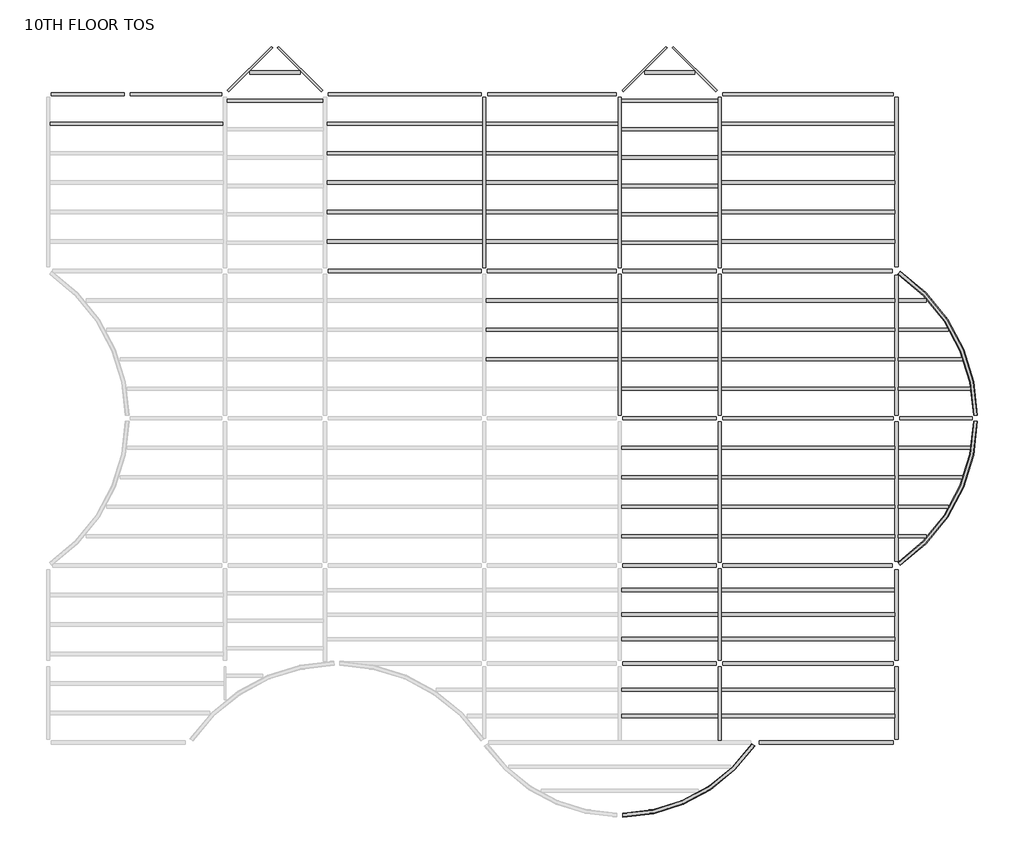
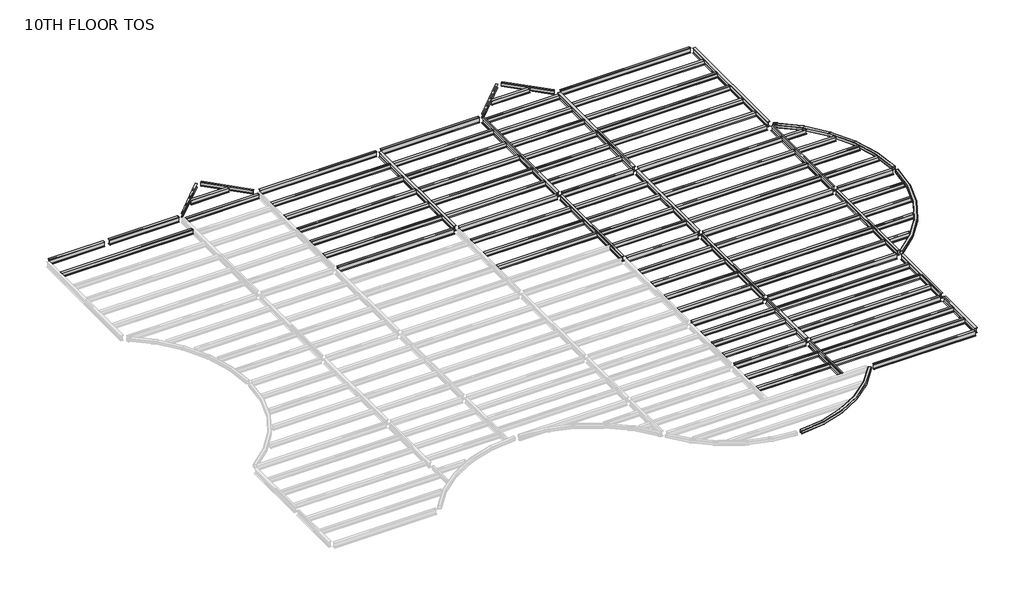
# One storey, part 2 of 2: 99 beams.
"""IFC4 building model written with IfcOpenShell, lengths in millimetres."""

from ifc_helpers import new_model, si_unit, origin, place, context, project, spatial, transform, mapped, element, save
from components import m_hss_square_hss203_2x203_2x9_5_28e91a4e, m_hss_square_hss203_2x203_2x9_5_f31329aa, m_hss_square_hss203_2x203_2x9_5_63507dff, ub_universal_beams_ub254x102x28_7812688d, ub_universal_beams_ub254x102x28_4a38c177, ub_universal_beams_ub305x165x40_c4d0385b, ub_universal_beams_ub305x165x40_19965e16, ub_universal_beams_ub305x165x40_d3abc31d, ub_universal_beams_ub305x165x40_0c73730f, ub_universal_beams_ub305x165x40_2a963f0c, ub_universal_beams_ub305x165x40_9ce7f2ee, ub_universal_beams_ub305x165x40_d184adfd, ub_universal_beams_ub305x165x40_bc7dc938, ub_universal_beams_ub305x165x40_b4233d25, ub_universal_beams_ub356x171x51_c708c058, ub_universal_beams_ub356x171x51_ef72dcdd, ub_universal_beams_ub356x171x51_10b3c54f, ub_universal_beams_ub356x171x51_4c9fd821, ub_universal_beams_ub356x171x51_d1a87c3c, ub_universal_beams_ub356x171x51_fa75724b, ub_universal_beams_ub356x171x51_68db896e, ub_universal_beams_ub356x171x51_c634c4a6, ub_universal_beams_ub356x171x51_995f1560, ub_universal_beams_ub356x171x51_dfc36663, ub_universal_beams_ub356x171x51_11d6b780, ub_universal_beams_ub356x171x51_76b2d20b, ub_universal_beams_ub356x171x51_145ecd4b, ub_universal_beams_ub356x171x51_c7dff8d2, ub_universal_beams_ub356x171x51_8a345439, ub_universal_beams_ub356x171x51_6da510e9, ub_universal_beams_ub356x171x51_e97f8d2e, ub_universal_beams_ub356x171x51_a38b99de, ub_universal_beams_ub356x171x51_d8f4cdde, ub_universal_beams_ub356x171x51_475301e6, ub_universal_beams_ub356x171x51_c03c70fb, ub_universal_beams_ub356x171x51_741bae58

model = new_model("IFC4")

# Units and contexts
model_context = context("Model", 3, world=origin())
ifc_project = project(units=[si_unit("LENGTHUNIT", "METRE", prefix="MILLI")], contexts=[model_context])

# Site, building, storey
site = spatial("IfcSite", under=ifc_project)
building = spatial("IfcBuilding", under=site)
storey = spatial("IfcBuildingStorey", under=building, Name="10TH FLOOR TOS", Elevation=45567.6)

# Beams
placement = place(None, origin())
m_hss_square_hss203_2x203_2x9_5_shape = m_hss_square_hss203_2x203_2x9_5_28e91a4e(model_context)
element("IfcBeam", 1, ObjectType="M_HSS Square : HSS203.2X203.2X9.5", at=placement, inside=storey, context=model_context, shape_type="MappedRepresentation", body=[
    mapped(m_hss_square_hss203_2x203_2x9_5_shape, transform((44027.575, 24539.575, 45466.1), x_axis=(0.8332810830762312, -0.5528495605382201, 0.0), y_axis=(0.5528495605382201, 0.8332810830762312, 0.0), z_axis=(0.0, 0.0, 1.0))),
])
m_hss_square_hss203_2x203_2x9_5_2_shape = m_hss_square_hss203_2x203_2x9_5_f31329aa(model_context)
element("IfcBeam", 2, ObjectType="M_HSS Square : HSS203.2X203.2X9.5", at=placement, inside=storey, context=model_context, shape_type="MappedRepresentation", body=[
    mapped(m_hss_square_hss203_2x203_2x9_5_2_shape, transform((44027.575, 9299.575, 45466.1), x_axis=(0.8332810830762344, 0.5528495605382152, 0.0), y_axis=(-0.5528495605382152, 0.8332810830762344, 0.0), z_axis=(0.0, 0.0, 1.0))),
])
m_hss_square_hss203_2x203_2x9_5_3_shape = m_hss_square_hss203_2x203_2x9_5_63507dff(model_context)
element("IfcBeam", 3, ObjectType="M_HSS Square : HSS203.2X203.2X9.5", at=placement, inside=storey, context=model_context, shape_type="MappedRepresentation", body=[
    mapped(m_hss_square_hss203_2x203_2x9_5_3_shape, transform((36716.575, 155.575, 45466.1), x_axis=(-0.5530174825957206, -0.8331696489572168, 0.0), y_axis=(0.8331696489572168, -0.5530174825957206, 0.0), z_axis=(0.0, 0.0, 1.0))),
])
ub_universal_beams_ub254x102x28_shape = ub_universal_beams_ub254x102x28_7812688d(model_context)
element("IfcBeam", 4, ObjectType="UB-Universal Beams : UB254x102x28", at=placement, inside=storey, context=model_context, shape_type="MappedRepresentation", body=[
    mapped(ub_universal_beams_ub254x102x28_shape, transform((10592.575, 34976.575, 45437.4), x_axis=(0.7071067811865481, 0.7071067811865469, 0.0), y_axis=(-0.7071067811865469, 0.7071067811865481, 0.0), z_axis=(0.0, 0.0, 1.0))),
])
element("IfcBeam", 5, ObjectType="UB-Universal Beams : UB254x102x28", at=placement, inside=storey, context=model_context, shape_type="MappedRepresentation", body=[
    mapped(ub_universal_beams_ub254x102x28_shape, transform((31004.575, 34976.575, 45437.4), x_axis=(0.7071067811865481, 0.7071067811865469, 0.0), y_axis=(-0.7071067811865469, 0.7071067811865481, 0.0), z_axis=(0.0, 0.0, 1.0))),
])
ub_universal_beams_ub254x102x28_2_shape = ub_universal_beams_ub254x102x28_4a38c177(model_context)
element("IfcBeam", 6, ObjectType="UB-Universal Beams : UB254x102x28", at=placement, inside=storey, context=model_context, shape_type="MappedRepresentation", body=[
    mapped(ub_universal_beams_ub254x102x28_2_shape, transform((13178.575, 34976.575, 45437.4), x_axis=(0.707106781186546, -0.707106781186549, 0.0), y_axis=(0.707106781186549, 0.707106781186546, 0.0), z_axis=(0.0, 0.0, 1.0))),
])
element("IfcBeam", 7, ObjectType="UB-Universal Beams : UB254x102x28", at=placement, inside=storey, context=model_context, shape_type="MappedRepresentation", body=[
    mapped(ub_universal_beams_ub254x102x28_2_shape, transform((33590.575, 34976.575, 45437.4), x_axis=(0.7071067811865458, -0.7071067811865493, 0.0), y_axis=(0.7071067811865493, 0.7071067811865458, 0.0), z_axis=(0.0, 0.0, 1.0))),
])
ub_universal_beams_ub305x165x40_shape = ub_universal_beams_ub305x165x40_c4d0385b(model_context)
element("IfcBeam", 8, ObjectType="UB-Universal Beams : UB305x165x40", at=placement, inside=storey, context=model_context, shape_type="MappedRepresentation", body=[
    mapped(ub_universal_beams_ub305x165x40_shape, transform((4727.575, 32159.575, 45415.9), x_axis=(1.0, 0.0, 0.0), y_axis=(0.0, 1.0, 0.0), z_axis=(0.0, 0.0, 1.0))),
])
element("IfcBeam", 9, ObjectType="UB-Universal Beams : UB305x165x40", at=placement, inside=storey, context=model_context, shape_type="MappedRepresentation", body=[
    mapped(ub_universal_beams_ub305x165x40_shape, transform((39455.575, 32159.575, 45415.9), x_axis=(1.0, 0.0, 0.0), y_axis=(0.0, 1.0, 0.0), z_axis=(0.0, 0.0, 1.0))),
])
element("IfcBeam", 10, ObjectType="UB-Universal Beams : UB305x165x40", at=placement, inside=storey, context=model_context, shape_type="MappedRepresentation", body=[
    mapped(ub_universal_beams_ub305x165x40_shape, transform((39455.575, 30635.575, 45415.9), x_axis=(1.0, 0.0, 0.0), y_axis=(0.0, 1.0, 0.0), z_axis=(0.0, 0.0, 1.0))),
])
element("IfcBeam", 11, ObjectType="UB-Universal Beams : UB305x165x40", at=placement, inside=storey, context=model_context, shape_type="MappedRepresentation", body=[
    mapped(ub_universal_beams_ub305x165x40_shape, transform((39455.575, 29111.575, 45415.9), x_axis=(1.0, 0.0, 0.0), y_axis=(0.0, 1.0, 0.0), z_axis=(0.0, 0.0, 1.0))),
])
element("IfcBeam", 12, ObjectType="UB-Universal Beams : UB305x165x40", at=placement, inside=storey, context=model_context, shape_type="MappedRepresentation", body=[
    mapped(ub_universal_beams_ub305x165x40_shape, transform((39455.575, 27587.575, 45415.9), x_axis=(1.0, 0.0, 0.0), y_axis=(0.0, 1.0, 0.0), z_axis=(0.0, 0.0, 1.0))),
])
element("IfcBeam", 13, ObjectType="UB-Universal Beams : UB305x165x40", at=placement, inside=storey, context=model_context, shape_type="MappedRepresentation", body=[
    mapped(ub_universal_beams_ub305x165x40_shape, transform((39455.575, 26063.575, 45415.9), x_axis=(1.0, 0.0, 0.0), y_axis=(0.0, 1.0, 0.0), z_axis=(0.0, 0.0, 1.0))),
])
element("IfcBeam", 14, ObjectType="UB-Universal Beams : UB305x165x40", at=placement, inside=storey, context=model_context, shape_type="MappedRepresentation", body=[
    mapped(ub_universal_beams_ub305x165x40_shape, transform((39455.575, 23015.575, 45415.9), x_axis=(1.0, 0.0, 0.0), y_axis=(0.0, 1.0, 0.0), z_axis=(0.0, 0.0, 1.0))),
])
element("IfcBeam", 15, ObjectType="UB-Universal Beams : UB305x165x40", at=placement, inside=storey, context=model_context, shape_type="MappedRepresentation", body=[
    mapped(ub_universal_beams_ub305x165x40_shape, transform((39455.575, 21491.575, 45415.9), x_axis=(1.0, 0.0, 0.0), y_axis=(0.0, 1.0, 0.0), z_axis=(0.0, 0.0, 1.0))),
])
element("IfcBeam", 16, ObjectType="UB-Universal Beams : UB305x165x40", at=placement, inside=storey, context=model_context, shape_type="MappedRepresentation", body=[
    mapped(ub_universal_beams_ub305x165x40_shape, transform((39455.575, 19967.575, 45415.9), x_axis=(1.0, 0.0, 0.0), y_axis=(0.0, 1.0, 0.0), z_axis=(0.0, 0.0, 1.0))),
])
element("IfcBeam", 17, ObjectType="UB-Universal Beams : UB305x165x40", at=placement, inside=storey, context=model_context, shape_type="MappedRepresentation", body=[
    mapped(ub_universal_beams_ub305x165x40_shape, transform((39455.575, 18443.575, 45415.9), x_axis=(1.0, 0.0, 0.0), y_axis=(0.0, 1.0, 0.0), z_axis=(0.0, 0.0, 1.0))),
])
element("IfcBeam", 18, ObjectType="UB-Universal Beams : UB305x165x40", at=placement, inside=storey, context=model_context, shape_type="MappedRepresentation", body=[
    mapped(ub_universal_beams_ub305x165x40_shape, transform((39455.575, 15395.575, 45415.9), x_axis=(1.0, 0.0, 0.0), y_axis=(0.0, 1.0, 0.0), z_axis=(0.0, 0.0, 1.0))),
])
element("IfcBeam", 19, ObjectType="UB-Universal Beams : UB305x165x40", at=placement, inside=storey, context=model_context, shape_type="MappedRepresentation", body=[
    mapped(ub_universal_beams_ub305x165x40_shape, transform((39455.575, 13871.575, 45415.9), x_axis=(1.0, 0.0, 0.0), y_axis=(0.0, 1.0, 0.0), z_axis=(0.0, 0.0, 1.0))),
])
element("IfcBeam", 20, ObjectType="UB-Universal Beams : UB305x165x40", at=placement, inside=storey, context=model_context, shape_type="MappedRepresentation", body=[
    mapped(ub_universal_beams_ub305x165x40_shape, transform((39455.575, 12347.575, 45415.9), x_axis=(1.0, 0.0, 0.0), y_axis=(0.0, 1.0, 0.0), z_axis=(0.0, 0.0, 1.0))),
])
element("IfcBeam", 21, ObjectType="UB-Universal Beams : UB305x165x40", at=placement, inside=storey, context=model_context, shape_type="MappedRepresentation", body=[
    mapped(ub_universal_beams_ub305x165x40_shape, transform((39455.575, 10823.575, 45415.9), x_axis=(1.0, 0.0, 0.0), y_axis=(0.0, 1.0, 0.0), z_axis=(0.0, 0.0, 1.0))),
])
element("IfcBeam", 22, ObjectType="UB-Universal Beams : UB305x165x40", at=placement, inside=storey, context=model_context, shape_type="MappedRepresentation", body=[
    mapped(ub_universal_beams_ub305x165x40_shape, transform((39455.575, 5508.325, 45415.9), x_axis=(-1.0, 0.0, 0.0), y_axis=(0.0, -1.0, 0.0), z_axis=(0.0, 0.0, 1.0))),
])
element("IfcBeam", 23, ObjectType="UB-Universal Beams : UB305x165x40", at=placement, inside=storey, context=model_context, shape_type="MappedRepresentation", body=[
    mapped(ub_universal_beams_ub305x165x40_shape, transform((39455.575, 6772.075, 45415.9), x_axis=(-1.0, 0.0, 0.0), y_axis=(0.0, -1.0, 0.0), z_axis=(0.0, 0.0, 1.0))),
])
element("IfcBeam", 24, ObjectType="UB-Universal Beams : UB305x165x40", at=placement, inside=storey, context=model_context, shape_type="MappedRepresentation", body=[
    mapped(ub_universal_beams_ub305x165x40_shape, transform((39455.575, 8035.825, 45415.9), x_axis=(-1.0, 0.0, 0.0), y_axis=(0.0, -1.0, 0.0), z_axis=(0.0, 0.0, 1.0))),
])
element("IfcBeam", 25, ObjectType="UB-Universal Beams : UB305x165x40", at=placement, inside=storey, context=model_context, shape_type="MappedRepresentation", body=[
    mapped(ub_universal_beams_ub305x165x40_shape, transform((39455.575, 1518.575, 45415.9), x_axis=(-1.0, 0.0, 0.0), y_axis=(0.0, -1.0, 0.0), z_axis=(0.0, 0.0, 1.0))),
])
element("IfcBeam", 26, ObjectType="UB-Universal Beams : UB305x165x40", at=placement, inside=storey, context=model_context, shape_type="MappedRepresentation", body=[
    mapped(ub_universal_beams_ub305x165x40_shape, transform((39455.575, 2881.575, 45415.9), x_axis=(-1.0, 0.0, 0.0), y_axis=(0.0, -1.0, 0.0), z_axis=(0.0, 0.0, 1.0))),
])
ub_universal_beams_ub305x165x40_2_shape = ub_universal_beams_ub305x165x40_19965e16(model_context)
element("IfcBeam", 27, ObjectType="UB-Universal Beams : UB305x165x40", at=placement, inside=storey, context=model_context, shape_type="MappedRepresentation", body=[
    mapped(ub_universal_beams_ub305x165x40_2_shape, transform((11885.575, 34803.325, 45415.9), x_axis=(1.0, 0.0, 0.0), y_axis=(0.0, 1.0, 0.0), z_axis=(0.0, 0.0, 1.0))),
])
element("IfcBeam", 28, ObjectType="UB-Universal Beams : UB305x165x40", at=placement, inside=storey, context=model_context, shape_type="MappedRepresentation", body=[
    mapped(ub_universal_beams_ub305x165x40_2_shape, transform((32297.575, 34803.325, 45415.9), x_axis=(1.0, 0.0, 0.0), y_axis=(0.0, 1.0, 0.0), z_axis=(0.0, 0.0, 1.0))),
])
ub_universal_beams_ub305x165x40_3_shape = ub_universal_beams_ub305x165x40_d3abc31d(model_context)
element("IfcBeam", 29, ObjectType="UB-Universal Beams : UB305x165x40", at=placement, inside=storey, context=model_context, shape_type="MappedRepresentation", body=[
    mapped(ub_universal_beams_ub305x165x40_3_shape, transform((11885.575, 33337.075, 45415.9), x_axis=(1.0, 0.0, 0.0), y_axis=(0.0, 1.0, 0.0), z_axis=(0.0, 0.0, 1.0))),
])
element("IfcBeam", 30, ObjectType="UB-Universal Beams : UB305x165x40", at=placement, inside=storey, context=model_context, shape_type="MappedRepresentation", body=[
    mapped(ub_universal_beams_ub305x165x40_3_shape, transform((32297.575, 33337.075, 45415.9), x_axis=(1.0, 0.0, 0.0), y_axis=(0.0, 1.0, 0.0), z_axis=(0.0, 0.0, 1.0))),
])
element("IfcBeam", 31, ObjectType="UB-Universal Beams : UB305x165x40", at=placement, inside=storey, context=model_context, shape_type="MappedRepresentation", body=[
    mapped(ub_universal_beams_ub305x165x40_3_shape, transform((32297.575, 31870.825, 45415.9), x_axis=(1.0, 0.0, 0.0), y_axis=(0.0, 1.0, 0.0), z_axis=(0.0, 0.0, 1.0))),
])
element("IfcBeam", 32, ObjectType="UB-Universal Beams : UB305x165x40", at=placement, inside=storey, context=model_context, shape_type="MappedRepresentation", body=[
    mapped(ub_universal_beams_ub305x165x40_3_shape, transform((32297.575, 30404.575, 45415.9), x_axis=(1.0, 0.0, 0.0), y_axis=(0.0, 1.0, 0.0), z_axis=(0.0, 0.0, 1.0))),
])
element("IfcBeam", 33, ObjectType="UB-Universal Beams : UB305x165x40", at=placement, inside=storey, context=model_context, shape_type="MappedRepresentation", body=[
    mapped(ub_universal_beams_ub305x165x40_3_shape, transform((32297.575, 28938.325, 45415.9), x_axis=(1.0, 0.0, 0.0), y_axis=(0.0, 1.0, 0.0), z_axis=(0.0, 0.0, 1.0))),
])
element("IfcBeam", 34, ObjectType="UB-Universal Beams : UB305x165x40", at=placement, inside=storey, context=model_context, shape_type="MappedRepresentation", body=[
    mapped(ub_universal_beams_ub305x165x40_3_shape, transform((32297.575, 27472.075, 45415.9), x_axis=(1.0, 0.0, 0.0), y_axis=(0.0, 1.0, 0.0), z_axis=(0.0, 0.0, 1.0))),
])
element("IfcBeam", 35, ObjectType="UB-Universal Beams : UB305x165x40", at=placement, inside=storey, context=model_context, shape_type="MappedRepresentation", body=[
    mapped(ub_universal_beams_ub305x165x40_3_shape, transform((32297.575, 26005.825, 45415.9), x_axis=(1.0, 0.0, 0.0), y_axis=(0.0, 1.0, 0.0), z_axis=(0.0, 0.0, 1.0))),
])
element("IfcBeam", 36, ObjectType="UB-Universal Beams : UB305x165x40", at=placement, inside=storey, context=model_context, shape_type="MappedRepresentation", body=[
    mapped(ub_universal_beams_ub305x165x40_3_shape, transform((32297.575, 1518.575, 45415.9), x_axis=(-1.0, 0.0, 0.0), y_axis=(0.0, -1.0, 0.0), z_axis=(0.0, 0.0, 1.0))),
])
element("IfcBeam", 37, ObjectType="UB-Universal Beams : UB305x165x40", at=placement, inside=storey, context=model_context, shape_type="MappedRepresentation", body=[
    mapped(ub_universal_beams_ub305x165x40_3_shape, transform((32297.575, 2881.575, 45415.9), x_axis=(-1.0, 0.0, 0.0), y_axis=(0.0, -1.0, 0.0), z_axis=(0.0, 0.0, 1.0))),
])
element("IfcBeam", 38, ObjectType="UB-Universal Beams : UB305x165x40", at=placement, inside=storey, context=model_context, shape_type="MappedRepresentation", body=[
    mapped(ub_universal_beams_ub305x165x40_3_shape, transform((32297.575, 5508.325, 45415.9), x_axis=(-1.0, 0.0, 0.0), y_axis=(0.0, -1.0, 0.0), z_axis=(0.0, 0.0, 1.0))),
])
element("IfcBeam", 39, ObjectType="UB-Universal Beams : UB305x165x40", at=placement, inside=storey, context=model_context, shape_type="MappedRepresentation", body=[
    mapped(ub_universal_beams_ub305x165x40_3_shape, transform((32297.575, 6772.075, 45415.9), x_axis=(-1.0, 0.0, 0.0), y_axis=(0.0, -1.0, 0.0), z_axis=(0.0, 0.0, 1.0))),
])
element("IfcBeam", 40, ObjectType="UB-Universal Beams : UB305x165x40", at=placement, inside=storey, context=model_context, shape_type="MappedRepresentation", body=[
    mapped(ub_universal_beams_ub305x165x40_3_shape, transform((32297.575, 8035.825, 45415.9), x_axis=(-1.0, 0.0, 0.0), y_axis=(0.0, -1.0, 0.0), z_axis=(0.0, 0.0, 1.0))),
])
element("IfcBeam", 41, ObjectType="UB-Universal Beams : UB305x165x40", at=placement, inside=storey, context=model_context, shape_type="MappedRepresentation", body=[
    mapped(ub_universal_beams_ub305x165x40_3_shape, transform((32297.575, 15395.575, 45415.9), x_axis=(1.0, 0.0, 0.0), y_axis=(0.0, 1.0, 0.0), z_axis=(0.0, 0.0, 1.0))),
])
element("IfcBeam", 42, ObjectType="UB-Universal Beams : UB305x165x40", at=placement, inside=storey, context=model_context, shape_type="MappedRepresentation", body=[
    mapped(ub_universal_beams_ub305x165x40_3_shape, transform((32297.575, 13871.575, 45415.9), x_axis=(1.0, 0.0, 0.0), y_axis=(0.0, 1.0, 0.0), z_axis=(0.0, 0.0, 1.0))),
])
element("IfcBeam", 43, ObjectType="UB-Universal Beams : UB305x165x40", at=placement, inside=storey, context=model_context, shape_type="MappedRepresentation", body=[
    mapped(ub_universal_beams_ub305x165x40_3_shape, transform((32297.575, 12347.575, 45415.9), x_axis=(1.0, 0.0, 0.0), y_axis=(0.0, 1.0, 0.0), z_axis=(0.0, 0.0, 1.0))),
])
element("IfcBeam", 44, ObjectType="UB-Universal Beams : UB305x165x40", at=placement, inside=storey, context=model_context, shape_type="MappedRepresentation", body=[
    mapped(ub_universal_beams_ub305x165x40_3_shape, transform((32297.575, 10823.575, 45415.9), x_axis=(1.0, 0.0, 0.0), y_axis=(0.0, 1.0, 0.0), z_axis=(0.0, 0.0, 1.0))),
])
element("IfcBeam", 45, ObjectType="UB-Universal Beams : UB305x165x40", at=placement, inside=storey, context=model_context, shape_type="MappedRepresentation", body=[
    mapped(ub_universal_beams_ub305x165x40_3_shape, transform((32297.575, 23015.575, 45415.9), x_axis=(1.0, 0.0, 0.0), y_axis=(0.0, 1.0, 0.0), z_axis=(0.0, 0.0, 1.0))),
])
element("IfcBeam", 46, ObjectType="UB-Universal Beams : UB305x165x40", at=placement, inside=storey, context=model_context, shape_type="MappedRepresentation", body=[
    mapped(ub_universal_beams_ub305x165x40_3_shape, transform((32297.575, 21491.575, 45415.9), x_axis=(1.0, 0.0, 0.0), y_axis=(0.0, 1.0, 0.0), z_axis=(0.0, 0.0, 1.0))),
])
element("IfcBeam", 47, ObjectType="UB-Universal Beams : UB305x165x40", at=placement, inside=storey, context=model_context, shape_type="MappedRepresentation", body=[
    mapped(ub_universal_beams_ub305x165x40_3_shape, transform((32297.575, 19967.575, 45415.9), x_axis=(1.0, 0.0, 0.0), y_axis=(0.0, 1.0, 0.0), z_axis=(0.0, 0.0, 1.0))),
])
element("IfcBeam", 48, ObjectType="UB-Universal Beams : UB305x165x40", at=placement, inside=storey, context=model_context, shape_type="MappedRepresentation", body=[
    mapped(ub_universal_beams_ub305x165x40_3_shape, transform((32297.575, 18443.575, 45415.9), x_axis=(1.0, 0.0, 0.0), y_axis=(0.0, 1.0, 0.0), z_axis=(0.0, 0.0, 1.0))),
])
ub_universal_beams_ub305x165x40_4_shape = ub_universal_beams_ub305x165x40_0c73730f(model_context)
element("IfcBeam", 49, ObjectType="UB-Universal Beams : UB305x165x40", at=placement, inside=storey, context=model_context, shape_type="MappedRepresentation", body=[
    mapped(ub_universal_beams_ub305x165x40_4_shape, transform((18591.075, 32159.575, 45415.9), x_axis=(1.0, 0.0, 0.0), y_axis=(0.0, 1.0, 0.0), z_axis=(0.0, 0.0, 1.0))),
])
element("IfcBeam", 50, ObjectType="UB-Universal Beams : UB305x165x40", at=placement, inside=storey, context=model_context, shape_type="MappedRepresentation", body=[
    mapped(ub_universal_beams_ub305x165x40_4_shape, transform((18591.075, 30635.575, 45415.9), x_axis=(1.0, 0.0, 0.0), y_axis=(0.0, 1.0, 0.0), z_axis=(0.0, 0.0, 1.0))),
])
element("IfcBeam", 51, ObjectType="UB-Universal Beams : UB305x165x40", at=placement, inside=storey, context=model_context, shape_type="MappedRepresentation", body=[
    mapped(ub_universal_beams_ub305x165x40_4_shape, transform((18591.075, 29111.575, 45415.9), x_axis=(1.0, 0.0, 0.0), y_axis=(0.0, 1.0, 0.0), z_axis=(0.0, 0.0, 1.0))),
])
element("IfcBeam", 52, ObjectType="UB-Universal Beams : UB305x165x40", at=placement, inside=storey, context=model_context, shape_type="MappedRepresentation", body=[
    mapped(ub_universal_beams_ub305x165x40_4_shape, transform((18591.075, 27587.575, 45415.9), x_axis=(1.0, 0.0, 0.0), y_axis=(0.0, 1.0, 0.0), z_axis=(0.0, 0.0, 1.0))),
])
element("IfcBeam", 53, ObjectType="UB-Universal Beams : UB305x165x40", at=placement, inside=storey, context=model_context, shape_type="MappedRepresentation", body=[
    mapped(ub_universal_beams_ub305x165x40_4_shape, transform((18591.075, 26063.575, 45415.9), x_axis=(1.0, 0.0, 0.0), y_axis=(0.0, 1.0, 0.0), z_axis=(0.0, 0.0, 1.0))),
])
ub_universal_beams_ub305x165x40_5_shape = ub_universal_beams_ub305x165x40_2a963f0c(model_context)
element("IfcBeam", 54, ObjectType="UB-Universal Beams : UB305x165x40", at=placement, inside=storey, context=model_context, shape_type="MappedRepresentation", body=[
    mapped(ub_universal_beams_ub305x165x40_5_shape, transform((26211.075, 32159.575, 45415.9), x_axis=(1.0, 0.0, 0.0), y_axis=(0.0, 1.0, 0.0), z_axis=(0.0, 0.0, 1.0))),
])
element("IfcBeam", 55, ObjectType="UB-Universal Beams : UB305x165x40", at=placement, inside=storey, context=model_context, shape_type="MappedRepresentation", body=[
    mapped(ub_universal_beams_ub305x165x40_5_shape, transform((26211.075, 30635.575, 45415.9), x_axis=(1.0, 0.0, 0.0), y_axis=(0.0, 1.0, 0.0), z_axis=(0.0, 0.0, 1.0))),
])
element("IfcBeam", 56, ObjectType="UB-Universal Beams : UB305x165x40", at=placement, inside=storey, context=model_context, shape_type="MappedRepresentation", body=[
    mapped(ub_universal_beams_ub305x165x40_5_shape, transform((26211.075, 29111.575, 45415.9), x_axis=(1.0, 0.0, 0.0), y_axis=(0.0, 1.0, 0.0), z_axis=(0.0, 0.0, 1.0))),
])
element("IfcBeam", 57, ObjectType="UB-Universal Beams : UB305x165x40", at=placement, inside=storey, context=model_context, shape_type="MappedRepresentation", body=[
    mapped(ub_universal_beams_ub305x165x40_5_shape, transform((26211.075, 27587.575, 45415.9), x_axis=(1.0, 0.0, 0.0), y_axis=(0.0, 1.0, 0.0), z_axis=(0.0, 0.0, 1.0))),
])
element("IfcBeam", 58, ObjectType="UB-Universal Beams : UB305x165x40", at=placement, inside=storey, context=model_context, shape_type="MappedRepresentation", body=[
    mapped(ub_universal_beams_ub305x165x40_5_shape, transform((26211.075, 26063.575, 45415.9), x_axis=(1.0, 0.0, 0.0), y_axis=(0.0, 1.0, 0.0), z_axis=(0.0, 0.0, 1.0))),
])
element("IfcBeam", 59, ObjectType="UB-Universal Beams : UB305x165x40", at=placement, inside=storey, context=model_context, shape_type="MappedRepresentation", body=[
    mapped(ub_universal_beams_ub305x165x40_5_shape, transform((26211.075, 23015.575, 45415.9), x_axis=(1.0, 0.0, 0.0), y_axis=(0.0, 1.0, 0.0), z_axis=(0.0, 0.0, 1.0))),
])
element("IfcBeam", 60, ObjectType="UB-Universal Beams : UB305x165x40", at=placement, inside=storey, context=model_context, shape_type="MappedRepresentation", body=[
    mapped(ub_universal_beams_ub305x165x40_5_shape, transform((26211.075, 21491.575, 45415.9), x_axis=(1.0, 0.0, 0.0), y_axis=(0.0, 1.0, 0.0), z_axis=(0.0, 0.0, 1.0))),
])
element("IfcBeam", 61, ObjectType="UB-Universal Beams : UB305x165x40", at=placement, inside=storey, context=model_context, shape_type="MappedRepresentation", body=[
    mapped(ub_universal_beams_ub305x165x40_5_shape, transform((26211.075, 19967.575, 45415.9), x_axis=(1.0, 0.0, 0.0), y_axis=(0.0, 1.0, 0.0), z_axis=(0.0, 0.0, 1.0))),
])
ub_universal_beams_ub305x165x40_6_shape = ub_universal_beams_ub305x165x40_9ce7f2ee(model_context)
element("IfcBeam", 62, ObjectType="UB-Universal Beams : UB305x165x40", at=placement, inside=storey, context=model_context, shape_type="MappedRepresentation", body=[
    mapped(ub_universal_beams_ub305x165x40_6_shape, transform((44907.9405309, 23015.575, 45415.9), x_axis=(1.0, 0.0, 0.0), y_axis=(0.0, 1.0, 0.0), z_axis=(0.0, 0.0, 1.0))),
])
element("IfcBeam", 63, ObjectType="UB-Universal Beams : UB305x165x40", at=placement, inside=storey, context=model_context, shape_type="MappedRepresentation", body=[
    mapped(ub_universal_beams_ub305x165x40_6_shape, transform((44907.9405309, 10823.575, 45415.9), x_axis=(1.0, 0.0, 0.0), y_axis=(0.0, 1.0, 0.0), z_axis=(0.0, 0.0, 1.0))),
])
ub_universal_beams_ub305x165x40_7_shape = ub_universal_beams_ub305x165x40_d184adfd(model_context)
element("IfcBeam", 64, ObjectType="UB-Universal Beams : UB305x165x40", at=placement, inside=storey, context=model_context, shape_type="MappedRepresentation", body=[
    mapped(ub_universal_beams_ub305x165x40_7_shape, transform((45459.5874928, 21491.575, 45415.9), x_axis=(1.0, 0.0, 0.0), y_axis=(0.0, 1.0, 0.0), z_axis=(0.0, 0.0, 1.0))),
])
element("IfcBeam", 65, ObjectType="UB-Universal Beams : UB305x165x40", at=placement, inside=storey, context=model_context, shape_type="MappedRepresentation", body=[
    mapped(ub_universal_beams_ub305x165x40_7_shape, transform((45459.5874928, 12347.575, 45415.9), x_axis=(1.0, 0.0, 0.0), y_axis=(0.0, 1.0, 0.0), z_axis=(0.0, 0.0, 1.0))),
])
ub_universal_beams_ub305x165x40_8_shape = ub_universal_beams_ub305x165x40_bc7dc938(model_context)
element("IfcBeam", 66, ObjectType="UB-Universal Beams : UB305x165x40", at=placement, inside=storey, context=model_context, shape_type="MappedRepresentation", body=[
    mapped(ub_universal_beams_ub305x165x40_8_shape, transform((45810.6153272, 19967.575, 45415.9), x_axis=(1.0, 0.0, 0.0), y_axis=(0.0, 1.0, 0.0), z_axis=(0.0, 0.0, 1.0))),
])
element("IfcBeam", 67, ObjectType="UB-Universal Beams : UB305x165x40", at=placement, inside=storey, context=model_context, shape_type="MappedRepresentation", body=[
    mapped(ub_universal_beams_ub305x165x40_8_shape, transform((45810.6153272, 13871.575, 45415.9), x_axis=(1.0, 0.0, 0.0), y_axis=(0.0, 1.0, 0.0), z_axis=(0.0, 0.0, 1.0))),
])
ub_universal_beams_ub305x165x40_9_shape = ub_universal_beams_ub305x165x40_b4233d25(model_context)
element("IfcBeam", 68, ObjectType="UB-Universal Beams : UB305x165x40", at=placement, inside=storey, context=model_context, shape_type="MappedRepresentation", body=[
    mapped(ub_universal_beams_ub305x165x40_9_shape, transform((46008.1318611, 18443.575, 45415.9), x_axis=(1.0, 0.0, 0.0), y_axis=(0.0, 1.0, 0.0), z_axis=(0.0, 0.0, 1.0))),
])
element("IfcBeam", 69, ObjectType="UB-Universal Beams : UB305x165x40", at=placement, inside=storey, context=model_context, shape_type="MappedRepresentation", body=[
    mapped(ub_universal_beams_ub305x165x40_9_shape, transform((46008.1318611, 15395.575, 45415.9), x_axis=(1.0, 0.0, 0.0), y_axis=(0.0, 1.0, 0.0), z_axis=(0.0, 0.0, 1.0))),
])
ub_universal_beams_ub356x171x51_shape = ub_universal_beams_ub356x171x51_c708c058(model_context)
element("IfcBeam", 70, ObjectType="UB-Universal Beams : UB356x171x51", at=placement, inside=storey, context=model_context, shape_type="MappedRepresentation", body=[
    mapped(ub_universal_beams_ub356x171x51_shape, transform((2200.075, 33683.575, 45390.1), x_axis=(1.0, 0.0, 0.0), y_axis=(0.0, 1.0, 0.0), z_axis=(0.0, 0.0, 1.0))),
])
ub_universal_beams_ub356x171x51_2_shape = ub_universal_beams_ub356x171x51_ef72dcdd(model_context)
element("IfcBeam", 71, ObjectType="UB-Universal Beams : UB356x171x51", at=placement, inside=storey, context=model_context, shape_type="MappedRepresentation", body=[
    mapped(ub_universal_beams_ub356x171x51_2_shape, transform((6772.075, 33683.575, 45390.1), x_axis=(1.0, 0.0, 0.0), y_axis=(0.0, 1.0, 0.0), z_axis=(0.0, 0.0, 1.0))),
])
element("IfcBeam", 72, ObjectType="UB-Universal Beams : UB356x171x51", at=placement, inside=storey, context=model_context, shape_type="MappedRepresentation", body=[
    mapped(ub_universal_beams_ub356x171x51_2_shape, transform((34883.575, 6772.075, 45390.1), x_axis=(0.0, -1.0, 0.0), y_axis=(1.0, 0.0, 0.0), z_axis=(0.0, 0.0, 1.0))),
])
ub_universal_beams_ub356x171x51_3_shape = ub_universal_beams_ub356x171x51_10b3c54f(model_context)
element("IfcBeam", 73, ObjectType="UB-Universal Beams : UB356x171x51", at=placement, inside=storey, context=model_context, shape_type="MappedRepresentation", body=[
    mapped(ub_universal_beams_ub356x171x51_3_shape, transform((18591.075, 33683.575, 45390.1), x_axis=(1.0, 0.0, 0.0), y_axis=(0.0, 1.0, 0.0), z_axis=(0.0, 0.0, 1.0))),
])
ub_universal_beams_ub356x171x51_4_shape = ub_universal_beams_ub356x171x51_4c9fd821(model_context)
element("IfcBeam", 74, ObjectType="UB-Universal Beams : UB356x171x51", at=placement, inside=storey, context=model_context, shape_type="MappedRepresentation", body=[
    mapped(ub_universal_beams_ub356x171x51_4_shape, transform((26211.075, 33683.575, 45390.1), x_axis=(1.0, 0.0, 0.0), y_axis=(0.0, 1.0, 0.0), z_axis=(0.0, 0.0, 1.0))),
])
ub_universal_beams_ub356x171x51_5_shape = ub_universal_beams_ub356x171x51_d1a87c3c(model_context)
element("IfcBeam", 75, ObjectType="UB-Universal Beams : UB356x171x51", at=placement, inside=storey, context=model_context, shape_type="MappedRepresentation", body=[
    mapped(ub_universal_beams_ub356x171x51_5_shape, transform((39455.575, 33683.575, 45390.1), x_axis=(1.0, 0.0, 0.0), y_axis=(0.0, 1.0, 0.0), z_axis=(0.0, 0.0, 1.0))),
])
ub_universal_beams_ub356x171x51_6_shape = ub_universal_beams_ub356x171x51_fa75724b(model_context)
element("IfcBeam", 76, ObjectType="UB-Universal Beams : UB356x171x51", at=placement, inside=storey, context=model_context, shape_type="MappedRepresentation", body=[
    mapped(ub_universal_beams_ub356x171x51_6_shape, transform((44027.575, 29111.575, 45390.1), x_axis=(0.0, -1.0, 0.0), y_axis=(1.0, 0.0, 0.0), z_axis=(0.0, 0.0, 1.0))),
])
ub_universal_beams_ub356x171x51_7_shape = ub_universal_beams_ub356x171x51_68db896e(model_context)
element("IfcBeam", 77, ObjectType="UB-Universal Beams : UB356x171x51", at=placement, inside=storey, context=model_context, shape_type="MappedRepresentation", body=[
    mapped(ub_universal_beams_ub356x171x51_7_shape, transform((44027.575, 6772.075, 45390.1), x_axis=(0.0, -1.0, 0.0), y_axis=(1.0, 0.0, 0.0), z_axis=(0.0, 0.0, 1.0))),
])
ub_universal_beams_ub356x171x51_8_shape = ub_universal_beams_ub356x171x51_c634c4a6(model_context)
element("IfcBeam", 78, ObjectType="UB-Universal Beams : UB356x171x51", at=placement, inside=storey, context=model_context, shape_type="MappedRepresentation", body=[
    mapped(ub_universal_beams_ub356x171x51_8_shape, transform((44027.575, 2200.075, 45390.1), x_axis=(0.0, -1.0, 0.0), y_axis=(1.0, 0.0, 0.0), z_axis=(0.0, 0.0, 1.0))),
])
ub_universal_beams_ub356x171x51_9_shape = ub_universal_beams_ub356x171x51_995f1560(model_context)
element("IfcBeam", 79, ObjectType="UB-Universal Beams : UB356x171x51", at=placement, inside=storey, context=model_context, shape_type="MappedRepresentation", body=[
    mapped(ub_universal_beams_ub356x171x51_9_shape, transform((40372.075, 155.575, 45390.1), x_axis=(-1.0, 0.0, 0.0), y_axis=(0.0, -1.0, 0.0), z_axis=(0.0, 0.0, 1.0))),
])
ub_universal_beams_ub356x171x51_10_shape = ub_universal_beams_ub356x171x51_dfc36663(model_context)
element("IfcBeam", 80, ObjectType="UB-Universal Beams : UB356x171x51", at=placement, inside=storey, context=model_context, shape_type="MappedRepresentation", body=[
    mapped(ub_universal_beams_ub356x171x51_10_shape, transform((46072.075, 16919.575, 45390.1), x_axis=(1.0, 0.0, 0.0), y_axis=(0.0, 1.0, 0.0), z_axis=(0.0, 0.0, 1.0))),
])
ub_universal_beams_ub356x171x51_11_shape = ub_universal_beams_ub356x171x51_11d6b780(model_context)
element("IfcBeam", 81, ObjectType="UB-Universal Beams : UB356x171x51", at=placement, inside=storey, context=model_context, shape_type="MappedRepresentation", body=[
    mapped(ub_universal_beams_ub356x171x51_11_shape, transform((32297.575, 24539.575, 45390.1), x_axis=(1.0, 0.0, 0.0), y_axis=(0.0, 1.0, 0.0), z_axis=(0.0, 0.0, 1.0))),
])
element("IfcBeam", 82, ObjectType="UB-Universal Beams : UB356x171x51", at=placement, inside=storey, context=model_context, shape_type="MappedRepresentation", body=[
    mapped(ub_universal_beams_ub356x171x51_11_shape, transform((32297.575, 9299.575, 45390.1), x_axis=(-1.0, 0.0, 0.0), y_axis=(0.0, -1.0, 0.0), z_axis=(0.0, 0.0, 1.0))),
])
element("IfcBeam", 83, ObjectType="UB-Universal Beams : UB356x171x51", at=placement, inside=storey, context=model_context, shape_type="MappedRepresentation", body=[
    mapped(ub_universal_beams_ub356x171x51_11_shape, transform((32297.575, 16919.575, 45390.1), x_axis=(1.0, 0.0, 0.0), y_axis=(0.0, 1.0, 0.0), z_axis=(0.0, 0.0, 1.0))),
])
element("IfcBeam", 84, ObjectType="UB-Universal Beams : UB356x171x51", at=placement, inside=storey, context=model_context, shape_type="MappedRepresentation", body=[
    mapped(ub_universal_beams_ub356x171x51_11_shape, transform((32297.575, 4244.575, 45390.1), x_axis=(-1.0, 0.0, 0.0), y_axis=(0.0, -1.0, 0.0), z_axis=(0.0, 0.0, 1.0))),
])
ub_universal_beams_ub356x171x51_12_shape = ub_universal_beams_ub356x171x51_76b2d20b(model_context)
element("IfcBeam", 85, ObjectType="UB-Universal Beams : UB356x171x51", at=placement, inside=storey, context=model_context, shape_type="MappedRepresentation", body=[
    mapped(ub_universal_beams_ub356x171x51_12_shape, transform((18591.075, 24539.575, 45390.1), x_axis=(1.0, 0.0, 0.0), y_axis=(0.0, 1.0, 0.0), z_axis=(0.0, 0.0, 1.0))),
])
ub_universal_beams_ub356x171x51_13_shape = ub_universal_beams_ub356x171x51_145ecd4b(model_context)
element("IfcBeam", 86, ObjectType="UB-Universal Beams : UB356x171x51", at=placement, inside=storey, context=model_context, shape_type="MappedRepresentation", body=[
    mapped(ub_universal_beams_ub356x171x51_13_shape, transform((26211.075, 24539.575, 45390.1), x_axis=(1.0, 0.0, 0.0), y_axis=(0.0, 1.0, 0.0), z_axis=(0.0, 0.0, 1.0))),
])
ub_universal_beams_ub356x171x51_14_shape = ub_universal_beams_ub356x171x51_c7dff8d2(model_context)
element("IfcBeam", 87, ObjectType="UB-Universal Beams : UB356x171x51", at=placement, inside=storey, context=model_context, shape_type="MappedRepresentation", body=[
    mapped(ub_universal_beams_ub356x171x51_14_shape, transform((39455.575, 24539.575, 45390.1), x_axis=(1.0, 0.0, 0.0), y_axis=(0.0, 1.0, 0.0), z_axis=(0.0, 0.0, 1.0))),
])
ub_universal_beams_ub356x171x51_15_shape = ub_universal_beams_ub356x171x51_8a345439(model_context)
element("IfcBeam", 88, ObjectType="UB-Universal Beams : UB356x171x51", at=placement, inside=storey, context=model_context, shape_type="MappedRepresentation", body=[
    mapped(ub_universal_beams_ub356x171x51_15_shape, transform((44027.575, 20729.575, 45390.1), x_axis=(0.0, -1.0, 0.0), y_axis=(1.0, 0.0, 0.0), z_axis=(0.0, 0.0, 1.0))),
])
ub_universal_beams_ub356x171x51_16_shape = ub_universal_beams_ub356x171x51_6da510e9(model_context)
element("IfcBeam", 89, ObjectType="UB-Universal Beams : UB356x171x51", at=placement, inside=storey, context=model_context, shape_type="MappedRepresentation", body=[
    mapped(ub_universal_beams_ub356x171x51_16_shape, transform((44027.575, 13109.575, 45390.1), x_axis=(0.0, -1.0, 0.0), y_axis=(1.0, 0.0, 0.0), z_axis=(0.0, 0.0, 1.0))),
])
ub_universal_beams_ub356x171x51_17_shape = ub_universal_beams_ub356x171x51_e97f8d2e(model_context)
element("IfcBeam", 90, ObjectType="UB-Universal Beams : UB356x171x51", at=placement, inside=storey, context=model_context, shape_type="MappedRepresentation", body=[
    mapped(ub_universal_beams_ub356x171x51_17_shape, transform((39455.575, 9299.575, 45390.1), x_axis=(-1.0, 0.0, 0.0), y_axis=(0.0, -1.0, 0.0), z_axis=(0.0, 0.0, 1.0))),
])
ub_universal_beams_ub356x171x51_18_shape = ub_universal_beams_ub356x171x51_a38b99de(model_context)
element("IfcBeam", 91, ObjectType="UB-Universal Beams : UB356x171x51", at=placement, inside=storey, context=model_context, shape_type="MappedRepresentation", body=[
    mapped(ub_universal_beams_ub356x171x51_18_shape, transform((34883.575, 20729.575, 45390.1), x_axis=(0.0, -1.0, 0.0), y_axis=(1.0, 0.0, 0.0), z_axis=(0.0, 0.0, 1.0))),
])
element("IfcBeam", 92, ObjectType="UB-Universal Beams : UB356x171x51", at=placement, inside=storey, context=model_context, shape_type="MappedRepresentation", body=[
    mapped(ub_universal_beams_ub356x171x51_18_shape, transform((34883.575, 13109.575, 45390.1), x_axis=(0.0, -1.0, 0.0), y_axis=(1.0, 0.0, 0.0), z_axis=(0.0, 0.0, 1.0))),
])
element("IfcBeam", 93, ObjectType="UB-Universal Beams : UB356x171x51", at=placement, inside=storey, context=model_context, shape_type="MappedRepresentation", body=[
    mapped(ub_universal_beams_ub356x171x51_18_shape, transform((29711.575, 20729.575, 45390.1), x_axis=(0.0, 1.0, 0.0), y_axis=(-1.0, 0.0, 0.0), z_axis=(0.0, 0.0, 1.0))),
])
ub_universal_beams_ub356x171x51_19_shape = ub_universal_beams_ub356x171x51_d8f4cdde(model_context)
element("IfcBeam", 94, ObjectType="UB-Universal Beams : UB356x171x51", at=placement, inside=storey, context=model_context, shape_type="MappedRepresentation", body=[
    mapped(ub_universal_beams_ub356x171x51_19_shape, transform((29711.575, 29111.575, 45390.1), x_axis=(0.0, 1.0, 0.0), y_axis=(-1.0, 0.0, 0.0), z_axis=(0.0, 0.0, 1.0))),
])
ub_universal_beams_ub356x171x51_20_shape = ub_universal_beams_ub356x171x51_475301e6(model_context)
element("IfcBeam", 95, ObjectType="UB-Universal Beams : UB356x171x51", at=placement, inside=storey, context=model_context, shape_type="MappedRepresentation", body=[
    mapped(ub_universal_beams_ub356x171x51_20_shape, transform((39455.575, 16919.575, 45390.1), x_axis=(1.0, 0.0, 0.0), y_axis=(0.0, 1.0, 0.0), z_axis=(0.0, 0.0, 1.0))),
])
element("IfcBeam", 96, ObjectType="UB-Universal Beams : UB356x171x51", at=placement, inside=storey, context=model_context, shape_type="MappedRepresentation", body=[
    mapped(ub_universal_beams_ub356x171x51_20_shape, transform((39455.575, 4244.575, 45390.1), x_axis=(-1.0, 0.0, 0.0), y_axis=(0.0, -1.0, 0.0), z_axis=(0.0, 0.0, 1.0))),
])
ub_universal_beams_ub356x171x51_21_shape = ub_universal_beams_ub356x171x51_c03c70fb(model_context)
element("IfcBeam", 97, ObjectType="UB-Universal Beams : UB356x171x51", at=placement, inside=storey, context=model_context, shape_type="MappedRepresentation", body=[
    mapped(ub_universal_beams_ub356x171x51_21_shape, transform((34883.575, 29111.575, 45390.1), x_axis=(0.0, -1.0, 0.0), y_axis=(1.0, 0.0, 0.0), z_axis=(0.0, 0.0, 1.0))),
])
element("IfcBeam", 98, ObjectType="UB-Universal Beams : UB356x171x51", at=placement, inside=storey, context=model_context, shape_type="MappedRepresentation", body=[
    mapped(ub_universal_beams_ub356x171x51_21_shape, transform((22710.575, 29111.575, 45390.1), x_axis=(0.0, -1.0, 0.0), y_axis=(1.0, 0.0, 0.0), z_axis=(0.0, 0.0, 1.0))),
])
ub_universal_beams_ub356x171x51_22_shape = ub_universal_beams_ub356x171x51_741bae58(model_context)
element("IfcBeam", 99, ObjectType="UB-Universal Beams : UB356x171x51", at=placement, inside=storey, context=model_context, shape_type="MappedRepresentation", body=[
    mapped(ub_universal_beams_ub356x171x51_22_shape, transform((34883.575, 2200.075, 45390.1), x_axis=(0.0, -1.0, 0.0), y_axis=(1.0, 0.0, 0.0), z_axis=(0.0, 0.0, 1.0))),
])

save(model, "model.ifc")
